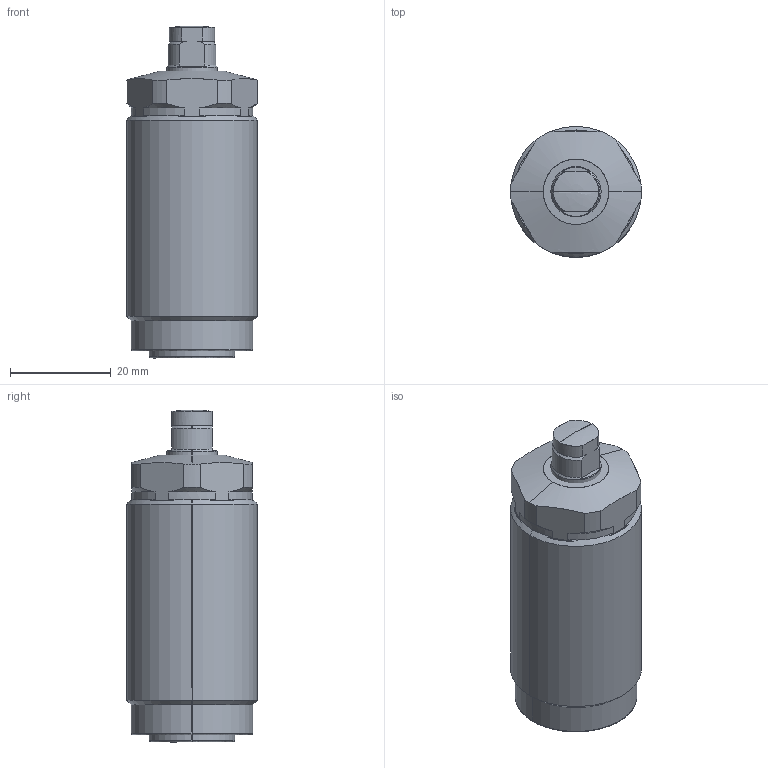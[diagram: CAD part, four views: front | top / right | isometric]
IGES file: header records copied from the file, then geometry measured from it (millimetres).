
Start section: SolidWorks IGES file using analytic representation for surfaces
Global section: file name: C:\Documents and Settings\nijil\My Documents\clasys\plz convert\LD Series\26\0201-0101.IGS; native system: SolidWorks 2010; preprocessor: SolidWorks 2010; author: nijil; date: 130729.152854; units: millimetre
Bounding box: 26 x 26 x 66 mm (x, y, z)
Surface area: 6104.2 mm2 (no closed solid volume)
Topology: 0 solids, 0 shells, 96 faces, 968 edges, 967 vertices
Faces by surface type: revolution 54, bspline 42
